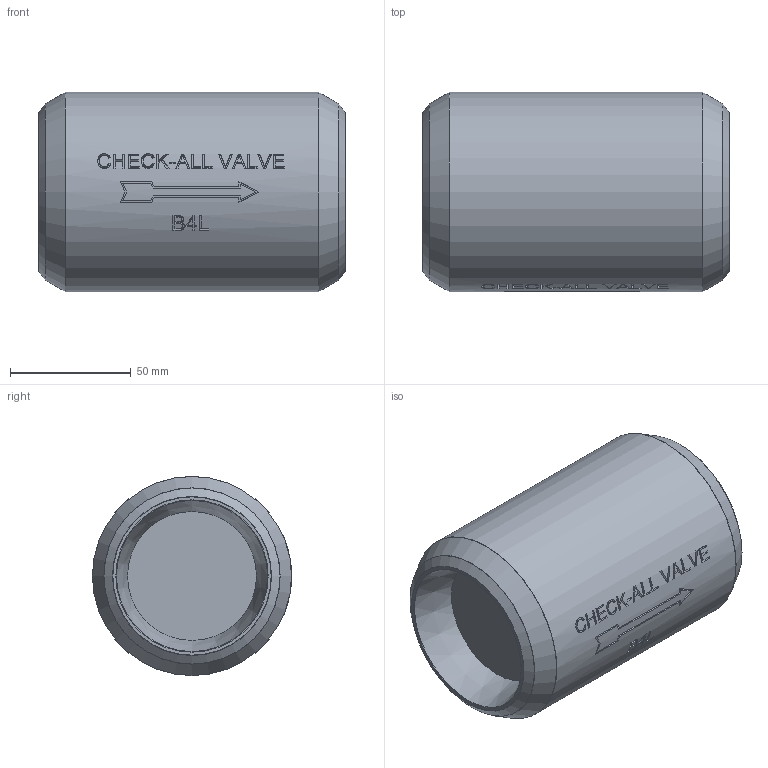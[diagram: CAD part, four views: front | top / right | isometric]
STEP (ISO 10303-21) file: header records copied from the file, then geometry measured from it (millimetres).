
FILE_DESCRIPTION( ( 'Unknown' ), '1' );
FILE_NAME( 'Y:/ENGR/Catalog & Web/3D Models for Web/B4/STEP/B4L.stp', 'Unknown', ( 'Unknown' ), ( 'Unknown' ), 'PSStep 14.0', 'Unknown', ' ' );
FILE_SCHEMA( ( 'AUTOMOTIVE_DESIGN { 1 0 10303 214 1 1 1 1 }' ) );
Length unit declared in the file: inch
Products named in the file (1): 1
Bounding box: 127.13 x 82.55 x 82.55 mm (x, y, z)
Volume: 562593.7 mm3; surface area: 47551.7 mm2
Topology: 1 solids, 1 shells, 208 faces, 532 edges, 352 vertices
Faces by surface type: plane 118, bspline 51, cylinder 26, torus 8, cone 5
Full cylindrical faces by diameter (mm): 62.713 x1, 82.55 x1
Entity records: 10644 total; most frequent: CARTESIAN_POINT 5118, ORIENTED_EDGE 1026, EDGE_CURVE 513, B_SPLINE_CURVE_WITH_KNOTS 495, DIRECTION 352, VERTEX_POINT 348, EDGE_LOOP 249, FACE_OUTER_BOUND 218
